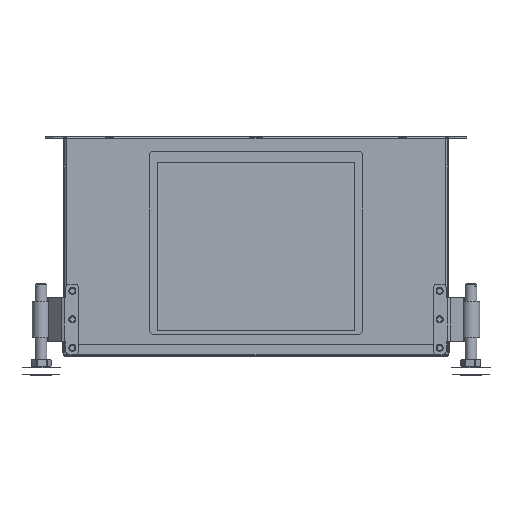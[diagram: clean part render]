
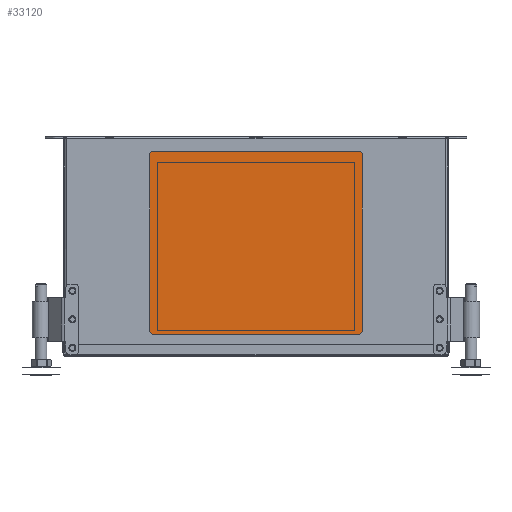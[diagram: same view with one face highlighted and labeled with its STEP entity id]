
A CAD part, front view. The second image highlights one B-rep face of the part: STEP entity #33120.
In plain terms, the highlighted planar face has unit normal (0, -1, 0).
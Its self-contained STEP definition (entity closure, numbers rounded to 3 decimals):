
#863=CIRCLE('',#35352,5.);
#864=CIRCLE('',#35353,5.);
#865=CIRCLE('',#35354,5.);
#866=CIRCLE('',#35355,5.);
#3504=FACE_OUTER_BOUND('',#5292,.T.);
#5292=EDGE_LOOP('',(#21829,#21830,#21831,#21832,#21833,#21834,#21835,#21836));
#7256=LINE('',#50411,#10018);
#7257=LINE('',#50415,#10019);
#7258=LINE('',#50419,#10020);
#7259=LINE('',#50422,#10021);
#10018=VECTOR('',#39827,10.);
#10019=VECTOR('',#39830,10.);
#10020=VECTOR('',#39833,10.);
#10021=VECTOR('',#39836,10.);
#13060=VERTEX_POINT('',#50407);
#13061=VERTEX_POINT('',#50408);
#13062=VERTEX_POINT('',#50410);
#13063=VERTEX_POINT('',#50412);
#13064=VERTEX_POINT('',#50414);
#13065=VERTEX_POINT('',#50416);
#13066=VERTEX_POINT('',#50418);
#13067=VERTEX_POINT('',#50420);
#16432=EDGE_CURVE('',#13060,#13061,#863,.T.);
#16433=EDGE_CURVE('',#13062,#13060,#7256,.T.);
#16434=EDGE_CURVE('',#13063,#13062,#864,.T.);
#16435=EDGE_CURVE('',#13064,#13063,#7257,.T.);
#16436=EDGE_CURVE('',#13065,#13064,#865,.T.);
#16437=EDGE_CURVE('',#13066,#13065,#7258,.T.);
#16438=EDGE_CURVE('',#13067,#13066,#866,.T.);
#16439=EDGE_CURVE('',#13061,#13067,#7259,.T.);
#21829=ORIENTED_EDGE('',*,*,#16432,.F.);
#21830=ORIENTED_EDGE('',*,*,#16433,.F.);
#21831=ORIENTED_EDGE('',*,*,#16434,.F.);
#21832=ORIENTED_EDGE('',*,*,#16435,.F.);
#21833=ORIENTED_EDGE('',*,*,#16436,.F.);
#21834=ORIENTED_EDGE('',*,*,#16437,.F.);
#21835=ORIENTED_EDGE('',*,*,#16438,.F.);
#21836=ORIENTED_EDGE('',*,*,#16439,.F.);
#30701=PLANE('',#35351);
#33120=ADVANCED_FACE('',(#3504),#30701,.T.);
#35351=AXIS2_PLACEMENT_3D('',#50406,#39823,#39824);
#35352=AXIS2_PLACEMENT_3D('',#50409,#39825,#39826);
#35353=AXIS2_PLACEMENT_3D('',#50413,#39828,#39829);
#35354=AXIS2_PLACEMENT_3D('',#50417,#39831,#39832);
#35355=AXIS2_PLACEMENT_3D('',#50421,#39834,#39835);
#39823=DIRECTION('center_axis',(0.,-1.,0.));
#39824=DIRECTION('ref_axis',(1.,0.,0.));
#39825=DIRECTION('center_axis',(0.,1.,0.));
#39826=DIRECTION('ref_axis',(-0.707,0.,-0.707));
#39827=DIRECTION('',(-1.,0.,0.));
#39828=DIRECTION('center_axis',(0.,1.,0.));
#39829=DIRECTION('ref_axis',(0.707,0.,-0.707));
#39830=DIRECTION('',(0.,0.,-1.));
#39831=DIRECTION('center_axis',(0.,1.,0.));
#39832=DIRECTION('ref_axis',(0.707,0.,0.707));
#39833=DIRECTION('',(1.,0.,0.));
#39834=DIRECTION('center_axis',(0.,1.,0.));
#39835=DIRECTION('ref_axis',(-0.707,0.,0.707));
#39836=DIRECTION('',(0.,0.,1.));
#50406=CARTESIAN_POINT('Origin',(602.61,-881.379,105.038));
#50407=CARTESIAN_POINT('',(462.61,-881.379,-19.962));
#50408=CARTESIAN_POINT('',(457.61,-881.379,-14.962));
#50409=CARTESIAN_POINT('Origin',(462.61,-881.379,-14.962));
#50410=CARTESIAN_POINT('',(742.61,-881.379,-19.962));
#50411=CARTESIAN_POINT('',(457.61,-881.379,-19.962));
#50412=CARTESIAN_POINT('',(747.61,-881.379,-14.962));
#50413=CARTESIAN_POINT('Origin',(742.61,-881.379,-14.962));
#50414=CARTESIAN_POINT('',(747.61,-881.379,225.038));
#50415=CARTESIAN_POINT('',(747.61,-881.379,-19.962));
#50416=CARTESIAN_POINT('',(742.61,-881.379,230.038));
#50417=CARTESIAN_POINT('Origin',(742.61,-881.379,225.038));
#50418=CARTESIAN_POINT('',(462.61,-881.379,230.038));
#50419=CARTESIAN_POINT('',(747.61,-881.379,230.038));
#50420=CARTESIAN_POINT('',(457.61,-881.379,225.038));
#50421=CARTESIAN_POINT('Origin',(462.61,-881.379,225.038));
#50422=CARTESIAN_POINT('',(457.61,-881.379,230.038));
